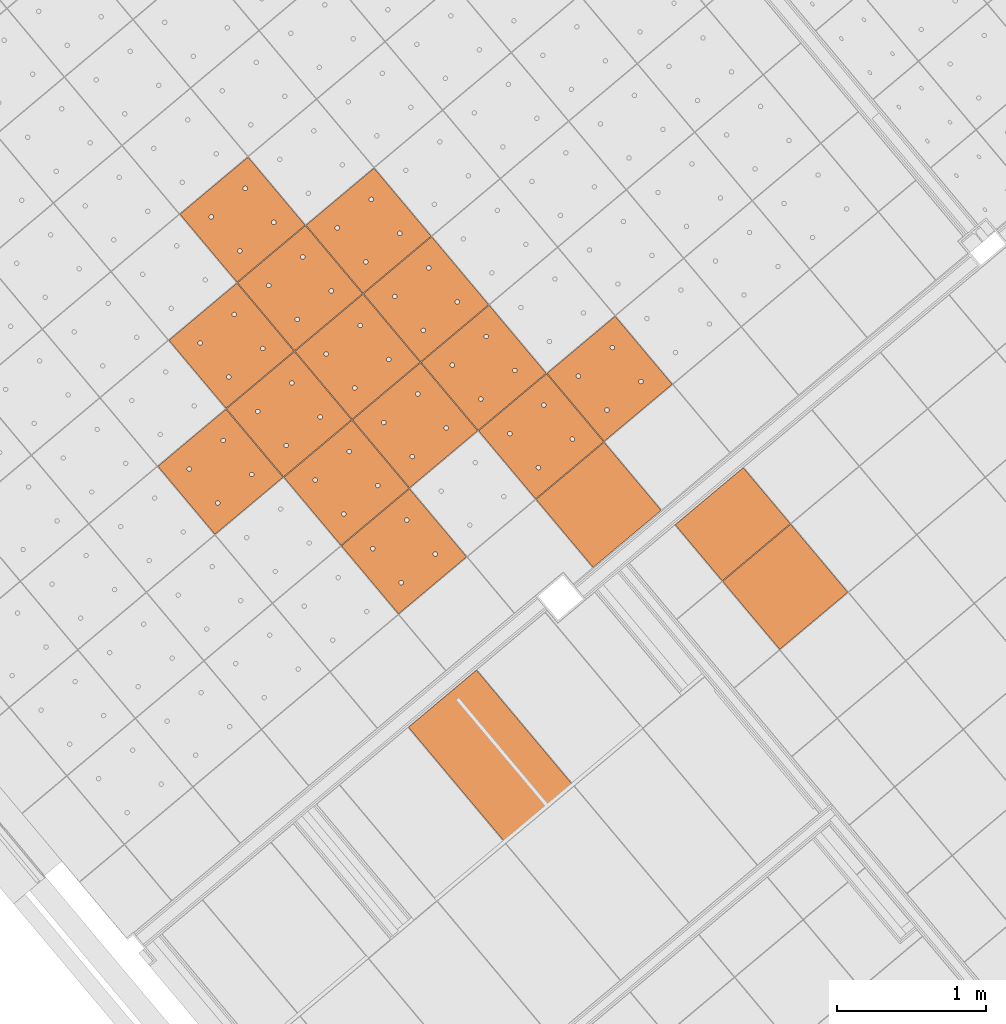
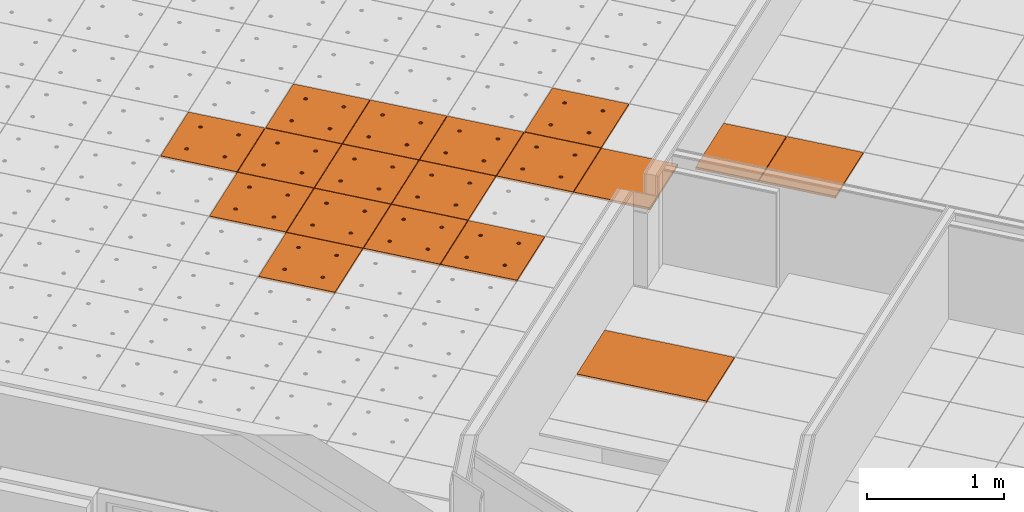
# One storey, part 143 of 338: 18 proxies, 3 elements without a shape of their own.
"""IFC2X3 building model written with IfcOpenShell, lengths in millimetres."""

from ifc_helpers import new_model, entity, si_unit, converted_unit, derived_unit, money_unit, direction, frame, origin_with_axes, place, context, subcontext, project, spatial, faceted_brep, source, transform, mapped, material, type_object, type_shapes, element, aggregate, save


model = new_model("IFC2X3")

# Units and contexts
model_context = context("Model", 3, precision=0.01, world=origin_with_axes(), true_north=direction((0.0, 1.0)))
plan_context = context("Plan", 3, precision=0.01, world=origin_with_axes(), true_north=direction((0.0, 1.0)))
body_context = subcontext(model_context, "Body", "Model", "MODEL_VIEW")
ifc_project = project(units=[si_unit("LENGTHUNIT", "METRE", prefix="MILLI"), si_unit("AREAUNIT", "SQUARE_METRE"), si_unit("VOLUMEUNIT", "CUBIC_METRE"), converted_unit("PLANEANGLEUNIT", "DEGREE", entity("IfcPlaneAngleMeasure", 0.0174532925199), si_unit("PLANEANGLEUNIT", "RADIAN"), dimensions=[0, 0, 0, 0, 0, 0, 0]), money_unit("EUR"), converted_unit("TIMEUNIT", "Year", entity("IfcTimeMeasure", 31556926.0), si_unit("TIMEUNIT", "SECOND"), dimensions=[0, 0, 1, 0, 0, 0, 0]), si_unit("MASSUNIT", "GRAM", prefix="KILO"), si_unit("THERMODYNAMICTEMPERATUREUNIT", "DEGREE_CELSIUS"), si_unit("LUMINOUSINTENSITYUNIT", "LUMEN"), si_unit("ENERGYUNIT", "JOULE", prefix="MEGA"), derived_unit("THERMALCONDUCTANCEUNIT", [(si_unit("POWERUNIT", "WATT"), 1), (si_unit("LENGTHUNIT", "METRE"), -1), (si_unit("THERMODYNAMICTEMPERATUREUNIT", "KELVIN"), -1)]), derived_unit("SPECIFICHEATCAPACITYUNIT", [(si_unit("ENERGYUNIT", "JOULE"), 1), (si_unit("MASSUNIT", "GRAM", prefix="KILO"), -1), (si_unit("THERMODYNAMICTEMPERATUREUNIT", "KELVIN"), -1)]), derived_unit("MASSDENSITYUNIT", [(si_unit("MASSUNIT", "GRAM", prefix="KILO"), 1), (si_unit("VOLUMEUNIT", "CUBIC_METRE"), -1)])], contexts=[model_context, plan_context])

# Site, building, storey
site_placement = place(None, origin_with_axes())
site = spatial("IfcSite", under=ifc_project, at=site_placement, Name="Fortuinstraat Woensdrecht", CompositionType="ELEMENT")
building_placement = place(site_placement, origin_with_axes())
building = spatial("IfcBuilding", under=site, at=building_placement, Name="IKC Fortuna", CompositionType="ELEMENT")
storey_placement = place(building_placement, origin_with_axes())
storey = spatial("IfcBuildingStorey", under=building, at=storey_placement, Name="00 begane grond", CompositionType="ELEMENT", Elevation=0.0)

# Covering, proxies
covering_type = type_object("IfcCoveringType", Name="Curtain Wall Type", PredefinedType="CEILING")
covering_1_placement = place(storey_placement, frame((17937.1227498, -4186.27868692, 4660.0), z_axis=(0.0, 0.0, 1.0), x_axis=(1.0, 0.0, 0.0)))
covering_1 = element("IfcCovering", 1, at=covering_1_placement, inside=storey, type_object=covering_type, Name="45_Plafondafwerking_P02", PredefinedType="CEILING")
ifc_material = material(Name="Gipsplaat")
building_element_proxy_type_1 = type_object("IfcBuildingElementProxyType", Name="Distinct Panel 600 x 600 x 20", PredefinedType="NOTDEFINED")
shared_shape_1 = source(origin_with_axes(), body_context, "Body", "Brep", [
    faceted_brep([(2.49999999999, 2.5, -10.0), (597.5, 2.49999999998, -10.0), (597.5, 2.49999999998, 10.0), (2.49999999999, 2.5, 10.0), (2.50000000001, 597.5, -10.0), (597.5, 597.5, -10.0), (597.5, 597.5, 10.0), (2.50000000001, 597.5, 10.0)], [[[0, 1, 2, 3]], [[0, 4, 5, 1]], [[1, 5, 6, 2]], [[3, 2, 6, 7]], [[4, 0, 3, 7]], [[5, 4, 7, 6]]]),
])
type_shapes(building_element_proxy_type_1, [shared_shape_1])
proxy_1_placement = place(covering_1_placement, frame((-8748.58757658, 1091.81516214, 2.57571741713e-10), z_axis=(0.0, 0.0, 1.0), x_axis=(1.0, 0.0, 0.0)))
proxy_1 = element("IfcBuildingElementProxy", 2, at=proxy_1_placement, type_object=building_element_proxy_type_1, material=ifc_material, Name="__Panel-D", context=body_context, shape_type="MappedRepresentation", body=[
    mapped(shared_shape_1, transform((36.9769427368, 422.649625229, 0.0), x_axis=(-0.766044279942, -0.642787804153, 0.0), y_axis=(0.642787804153, -0.766044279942, 0.0), z_axis=(0.0, 0.0, 1.0))),
])
building_element_proxy_type_2 = type_object("IfcBuildingElementProxyType", Name="Distinct Panel 600 x 495 x 20", PredefinedType="NOTDEFINED")
shared_shape_2 = source(origin_with_axes(), body_context, "Body", "Brep", [
    faceted_brep([(2.49999396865, 107.22693881, -10.0), (597.499990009, 107.226784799, -10.0), (597.499990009, 107.226784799, 10.0), (2.49999396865, 107.22693881, 10.0), (2.50000269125, 597.500000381, -10.0), (597.500002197, 597.499994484, -10.0), (597.500002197, 597.499994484, 10.0), (2.50000269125, 597.500000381, 10.0)], [[[0, 1, 2, 3]], [[0, 4, 5, 1]], [[1, 5, 6, 2]], [[3, 2, 6, 7]], [[4, 0, 3, 7]], [[5, 4, 7, 6]]]),
])
type_shapes(building_element_proxy_type_2, [shared_shape_2])
proxy_2_placement = place(covering_1_placement, frame((-9100.6016847, 1511.32902385, 2.57571741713e-10), z_axis=(0.0, 0.0, 1.0), x_axis=(1.0, 0.0, 0.0)))
proxy_2 = element("IfcBuildingElementProxy", 3, at=proxy_2_placement, type_object=building_element_proxy_type_2, material=ifc_material, Name="__Panel-D", context=body_context, shape_type="MappedRepresentation", body=[
    mapped(shared_shape_2, transform((3.31836836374, 462.762331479, 0.0), x_axis=(-0.766044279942, -0.642787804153, 0.0), y_axis=(0.642787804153, -0.766044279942, 0.0), z_axis=(0.0, 0.0, 1.0))),
])
aggregate(covering_1, [proxy_1, proxy_2])

covering_2_placement = place(storey_placement, frame((9775.85169731, -1002.28242867, 4660.0), z_axis=(0.0, 0.0, 1.0), x_axis=(1.0, 0.0, 0.0)))
covering_2 = element("IfcCovering", 4, at=covering_2_placement, inside=storey, type_object=covering_type, Name="45_Plafondafwerking_P01", PredefinedType="CEILING")
building_element_proxy_type_3 = type_object("IfcBuildingElementProxyType", Name="Main Panel 600 x 600 x 20", PredefinedType="NOTDEFINED")
shared_shape_3 = source(origin_with_axes(), body_context, "Body", "Brep", [
    faceted_brep([(2.49999999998, 2.49999999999, -10.0), (300.0, 2.49999999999, -10.0), (300.0, 2.49999999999, 10.0), (2.49999999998, 2.49999999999, 10.0), (2.49999999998, 300.0, -10.0), (2.49999999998, 597.5, -10.0), (300.0, 597.5, -10.0), (597.5, 597.5, -10.0), (597.5, 300.0, -10.0), (597.5, 2.49999999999, -10.0), (166.25, 450.06232995, -10.0), (165.79423259, 452.64711538, -10.0), (164.896546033, 455.11348892, -10.0), (163.58421608, 457.38651108, -10.0), (161.897117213, 459.39711721, -10.0), (159.886511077, 461.08421608, -10.0), (157.613488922, 462.39654603, -10.0), (155.147115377, 463.29423259, -10.0), (152.562329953, 463.75, -10.0), (149.937670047, 463.75, -10.0), (147.352884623, 463.29423259, -10.0), (144.886511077, 462.39654603, -10.0), (142.613488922, 461.08421608, -10.0), (140.602882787, 459.39711721, -10.0), (138.91578392, 457.38651108, -10.0), (137.603453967, 455.11348892, -10.0), (136.705767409, 452.64711538, -10.0), (136.25, 450.06232995, -10.0), (136.25, 448.75, -10.0), (136.25, 447.43767005, -10.0), (136.705767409, 444.85288462, -10.0), (137.603453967, 442.38651108, -10.0), (138.91578392, 440.11348892, -10.0), (140.602882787, 438.10288279, -10.0), (142.613488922, 436.41578392, -10.0), (144.886511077, 435.10345397, -10.0), (147.352884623, 434.20576741, -10.0), (149.937670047, 433.75, -10.0), (152.562329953, 433.75, -10.0), (155.147115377, 434.20576741, -10.0), (157.613488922, 435.10345397, -10.0), (159.886511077, 436.41578392, -10.0), (161.897117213, 438.10288279, -10.0), (163.58421608, 440.11348892, -10.0), (164.896546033, 442.38651108, -10.0), (165.79423259, 444.85288462, -10.0), (166.25, 447.43767005, -10.0), (463.75, 450.06232995, -10.0), (463.29423259, 452.64711538, -10.0), (462.396546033, 455.11348892, -10.0), (461.08421608, 457.38651108, -10.0), (459.397117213, 459.39711721, -10.0), (457.386511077, 461.08421608, -10.0), (455.113488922, 462.39654603, -10.0), (452.647115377, 463.29423259, -10.0), (450.062329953, 463.75, -10.0), (447.437670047, 463.75, -10.0), (444.852884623, 463.29423259, -10.0), (442.386511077, 462.39654603, -10.0), (440.113488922, 461.08421608, -10.0), (438.102882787, 459.39711721, -10.0), (436.41578392, 457.38651108, -10.0), (435.103453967, 455.11348892, -10.0), (434.205767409, 452.64711538, -10.0), (433.75, 450.06232995, -10.0), (433.75, 448.75, -10.0), (433.75, 447.43767005, -10.0), (434.205767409, 444.85288462, -10.0), (435.103453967, 442.38651108, -10.0), (436.41578392, 440.11348892, -10.0), (438.102882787, 438.10288279, -10.0), (440.113488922, 436.41578392, -10.0), (442.386511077, 435.10345397, -10.0), (444.852884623, 434.20576741, -10.0), (447.437670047, 433.75, -10.0), (450.062329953, 433.75, -10.0), (452.647115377, 434.20576741, -10.0), (455.113488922, 435.10345397, -10.0), (457.386511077, 436.41578392, -10.0), (459.397117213, 438.10288279, -10.0), (461.08421608, 440.11348892, -10.0), (462.396546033, 442.38651108, -10.0), (463.29423259, 444.85288462, -10.0), (463.75, 447.43767005, -10.0), (463.75, 152.56232995, -10.0), (463.29423259, 155.14711538, -10.0), (462.396546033, 157.61348892, -10.0), (461.08421608, 159.88651108, -10.0), (459.397117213, 161.89711721, -10.0), (457.386511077, 163.58421608, -10.0), (455.113488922, 164.89654603, -10.0), (452.647115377, 165.79423259, -10.0), (450.062329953, 166.25, -10.0), (447.437670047, 166.25, -10.0), (444.852884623, 165.79423259, -10.0), (442.386511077, 164.89654603, -10.0), (440.113488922, 163.58421608, -10.0), (438.102882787, 161.89711721, -10.0), (436.41578392, 159.88651108, -10.0), (435.103453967, 157.61348892, -10.0), (434.205767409, 155.14711538, -10.0), (433.75, 152.56232995, -10.0), (433.75, 151.25, -10.0), (433.75, 149.93767005, -10.0), (434.205767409, 147.35288462, -10.0), (435.103453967, 144.88651108, -10.0), (436.41578392, 142.61348892, -10.0), (438.102882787, 140.60288279, -10.0), (440.113488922, 138.91578392, -10.0), (442.386511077, 137.60345397, -10.0), (444.852884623, 136.70576741, -10.0), (447.437670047, 136.25, -10.0), (450.062329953, 136.25, -10.0), (452.647115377, 136.70576741, -10.0), (455.113488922, 137.60345397, -10.0), (457.386511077, 138.91578392, -10.0), (459.397117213, 140.60288279, -10.0), (461.08421608, 142.61348892, -10.0), (462.396546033, 144.88651108, -10.0), (463.29423259, 147.35288462, -10.0), (463.75, 149.93767005, -10.0), (166.25, 152.56232995, -10.0), (165.79423259, 155.14711538, -10.0), (164.896546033, 157.61348892, -10.0), (163.58421608, 159.88651108, -10.0), (161.897117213, 161.89711721, -10.0), (159.886511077, 163.58421608, -10.0), (157.613488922, 164.89654603, -10.0), (155.147115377, 165.79423259, -10.0), (152.562329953, 166.25, -10.0), (149.937670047, 166.25, -10.0), (147.352884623, 165.79423259, -10.0), (144.886511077, 164.89654603, -10.0), (142.613488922, 163.58421608, -10.0), (140.602882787, 161.89711721, -10.0), (138.91578392, 159.88651108, -10.0), (137.603453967, 157.61348892, -10.0), (136.705767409, 155.14711538, -10.0), (136.25, 152.56232995, -10.0), (136.25, 151.25, -10.0), (136.25, 149.93767005, -10.0), (136.705767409, 147.35288462, -10.0), (137.603453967, 144.88651108, -10.0), (138.91578392, 142.61348892, -10.0), (140.602882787, 140.60288279, -10.0), (142.613488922, 138.91578392, -10.0), (144.886511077, 137.60345397, -10.0), (147.352884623, 136.70576741, -10.0), (149.937670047, 136.25, -10.0), (152.562329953, 136.25, -10.0), (155.147115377, 136.70576741, -10.0), (157.613488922, 137.60345397, -10.0), (159.886511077, 138.91578392, -10.0), (161.897117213, 140.60288279, -10.0), (163.58421608, 142.61348892, -10.0), (164.896546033, 144.88651108, -10.0), (165.79423259, 147.35288462, -10.0), (166.25, 149.93767005, -10.0), (597.5, 2.49999999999, 10.0), (597.5, 300.0, 10.0), (597.5, 597.5, 10.0), (300.0, 597.5, 10.0), (2.49999999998, 597.5, 10.0), (2.49999999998, 300.0, 10.0), (166.25, 450.06232995, 10.0), (166.25, 447.43767005, 10.0), (165.79423259, 444.85288462, 10.0), (164.896546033, 442.38651108, 10.0), (163.58421608, 440.11348892, 10.0), (161.897117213, 438.10288279, 10.0), (159.886511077, 436.41578392, 10.0), (157.613488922, 435.10345397, 10.0), (155.147115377, 434.20576741, 10.0), (152.562329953, 433.75, 10.0), (149.937670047, 433.75, 10.0), (147.352884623, 434.20576741, 10.0), (144.886511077, 435.10345397, 10.0), (142.613488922, 436.41578392, 10.0), (140.602882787, 438.10288279, 10.0), (138.91578392, 440.11348892, 10.0), (137.603453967, 442.38651108, 10.0), (136.705767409, 444.85288462, 10.0), (136.25, 447.43767005, 10.0), (136.25, 448.75, 10.0), (136.25, 450.06232995, 10.0), (136.705767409, 452.64711538, 10.0), (137.603453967, 455.11348892, 10.0), (138.91578392, 457.38651108, 10.0), (140.602882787, 459.39711721, 10.0), (142.613488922, 461.08421608, 10.0), (144.886511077, 462.39654603, 10.0), (147.352884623, 463.29423259, 10.0), (149.937670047, 463.75, 10.0), (152.562329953, 463.75, 10.0), (155.147115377, 463.29423259, 10.0), (157.613488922, 462.39654603, 10.0), (159.886511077, 461.08421608, 10.0), (161.897117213, 459.39711721, 10.0), (163.58421608, 457.38651108, 10.0), (164.896546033, 455.11348892, 10.0), (165.79423259, 452.64711538, 10.0), (463.75, 450.06232995, 10.0), (463.75, 447.43767005, 10.0), (463.29423259, 444.85288462, 10.0), (462.396546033, 442.38651108, 10.0), (461.08421608, 440.11348892, 10.0), (459.397117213, 438.10288279, 10.0), (457.386511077, 436.41578392, 10.0), (455.113488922, 435.10345397, 10.0), (452.647115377, 434.20576741, 10.0), (450.062329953, 433.75, 10.0), (447.437670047, 433.75, 10.0), (444.852884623, 434.20576741, 10.0), (442.386511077, 435.10345397, 10.0), (440.113488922, 436.41578392, 10.0), (438.102882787, 438.10288279, 10.0), (436.41578392, 440.11348892, 10.0), (435.103453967, 442.38651108, 10.0), (434.205767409, 444.85288462, 10.0), (433.75, 447.43767005, 10.0), (433.75, 448.75, 10.0), (433.75, 450.06232995, 10.0), (434.205767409, 452.64711538, 10.0), (435.103453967, 455.11348892, 10.0), (436.41578392, 457.38651108, 10.0), (438.102882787, 459.39711721, 10.0), (440.113488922, 461.08421608, 10.0), (442.386511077, 462.39654603, 10.0), (444.852884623, 463.29423259, 10.0), (447.437670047, 463.75, 10.0), (450.062329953, 463.75, 10.0), (452.647115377, 463.29423259, 10.0), (455.113488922, 462.39654603, 10.0), (457.386511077, 461.08421608, 10.0), (459.397117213, 459.39711721, 10.0), (461.08421608, 457.38651108, 10.0), (462.396546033, 455.11348892, 10.0), (463.29423259, 452.64711538, 10.0), (463.75, 152.56232995, 10.0), (463.75, 149.93767005, 10.0), (463.29423259, 147.35288462, 10.0), (462.396546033, 144.88651108, 10.0), (461.08421608, 142.61348892, 10.0), (459.397117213, 140.60288279, 10.0), (457.386511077, 138.91578392, 10.0), (455.113488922, 137.60345397, 10.0), (452.647115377, 136.70576741, 10.0), (450.062329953, 136.25, 10.0), (447.437670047, 136.25, 10.0), (444.852884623, 136.70576741, 10.0), (442.386511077, 137.60345397, 10.0), (440.113488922, 138.91578392, 10.0), (438.102882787, 140.60288279, 10.0), (436.41578392, 142.61348892, 10.0), (435.103453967, 144.88651108, 10.0), (434.205767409, 147.35288462, 10.0), (433.75, 149.93767005, 10.0), (433.75, 151.25, 10.0), (433.75, 152.56232995, 10.0), (434.205767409, 155.14711538, 10.0), (435.103453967, 157.61348892, 10.0), (436.41578392, 159.88651108, 10.0), (438.102882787, 161.89711721, 10.0), (440.113488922, 163.58421608, 10.0), (442.386511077, 164.89654603, 10.0), (444.852884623, 165.79423259, 10.0), (447.437670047, 166.25, 10.0), (450.062329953, 166.25, 10.0), (452.647115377, 165.79423259, 10.0), (455.113488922, 164.89654603, 10.0), (457.386511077, 163.58421608, 10.0), (459.397117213, 161.89711721, 10.0), (461.08421608, 159.88651108, 10.0), (462.396546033, 157.61348892, 10.0), (463.29423259, 155.14711538, 10.0), (166.25, 152.56232995, 10.0), (166.25, 149.93767005, 10.0), (165.79423259, 147.35288462, 10.0), (164.896546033, 144.88651108, 10.0), (163.58421608, 142.61348892, 10.0), (161.897117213, 140.60288279, 10.0), (159.886511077, 138.91578392, 10.0), (157.613488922, 137.60345397, 10.0), (155.147115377, 136.70576741, 10.0), (152.562329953, 136.25, 10.0), (149.937670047, 136.25, 10.0), (147.352884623, 136.70576741, 10.0), (144.886511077, 137.60345397, 10.0), (142.613488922, 138.91578392, 10.0), (140.602882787, 140.60288279, 10.0), (138.91578392, 142.61348892, 10.0), (137.603453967, 144.88651108, 10.0), (136.705767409, 147.35288462, 10.0), (136.25, 149.93767005, 10.0), (136.25, 151.25, 10.0), (136.25, 152.56232995, 10.0), (136.705767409, 155.14711538, 10.0), (137.603453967, 157.61348892, 10.0), (138.91578392, 159.88651108, 10.0), (140.602882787, 161.89711721, 10.0), (142.613488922, 163.58421608, 10.0), (144.886511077, 164.89654603, 10.0), (147.352884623, 165.79423259, 10.0), (149.937670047, 166.25, 10.0), (152.562329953, 166.25, 10.0), (155.147115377, 165.79423259, 10.0), (157.613488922, 164.89654603, 10.0), (159.886511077, 163.58421608, 10.0), (161.897117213, 161.89711721, 10.0), (163.58421608, 159.88651108, 10.0), (164.896546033, 157.61348892, 10.0), (165.79423259, 155.14711538, 10.0)], [[[0, 1, 2, 3]], [[0, 4, 5, 6, 7, 8, 9, 1], [10, 11, 12, 13, 14, 15, 16, 17, 18, 19, 20, 21, 22, 23, 24, 25, 26, 27, 28, 29, 30, 31, 32, 33, 34, 35, 36, 37, 38, 39, 40, 41, 42, 43, 44, 45, 46], [47, 48, 49, 50, 51, 52, 53, 54, 55, 56, 57, 58, 59, 60, 61, 62, 63, 64, 65, 66, 67, 68, 69, 70, 71, 72, 73, 74, 75, 76, 77, 78, 79, 80, 81, 82, 83], [84, 85, 86, 87, 88, 89, 90, 91, 92, 93, 94, 95, 96, 97, 98, 99, 100, 101, 102, 103, 104, 105, 106, 107, 108, 109, 110, 111, 112, 113, 114, 115, 116, 117, 118, 119, 120], [121, 122, 123, 124, 125, 126, 127, 128, 129, 130, 131, 132, 133, 134, 135, 136, 137, 138, 139, 140, 141, 142, 143, 144, 145, 146, 147, 148, 149, 150, 151, 152, 153, 154, 155, 156, 157]], [[1, 9, 158, 2]], [[3, 2, 158, 159, 160, 161, 162, 163], [164, 165, 166, 167, 168, 169, 170, 171, 172, 173, 174, 175, 176, 177, 178, 179, 180, 181, 182, 183, 184, 185, 186, 187, 188, 189, 190, 191, 192, 193, 194, 195, 196, 197, 198, 199, 200], [201, 202, 203, 204, 205, 206, 207, 208, 209, 210, 211, 212, 213, 214, 215, 216, 217, 218, 219, 220, 221, 222, 223, 224, 225, 226, 227, 228, 229, 230, 231, 232, 233, 234, 235, 236, 237], [238, 239, 240, 241, 242, 243, 244, 245, 246, 247, 248, 249, 250, 251, 252, 253, 254, 255, 256, 257, 258, 259, 260, 261, 262, 263, 264, 265, 266, 267, 268, 269, 270, 271, 272, 273, 274], [275, 276, 277, 278, 279, 280, 281, 282, 283, 284, 285, 286, 287, 288, 289, 290, 291, 292, 293, 294, 295, 296, 297, 298, 299, 300, 301, 302, 303, 304, 305, 306, 307, 308, 309, 310, 311]], [[4, 0, 3, 163]], [[5, 4, 163, 162]], [[6, 5, 162, 161]], [[7, 6, 161, 160]], [[8, 7, 160, 159]], [[9, 8, 159, 158]], [[11, 10, 164, 200]], [[12, 11, 200, 199]], [[13, 12, 199, 198]], [[14, 13, 198, 197]], [[15, 14, 197, 196]], [[16, 15, 196, 195]], [[17, 16, 195, 194]], [[18, 17, 194, 193]], [[19, 18, 193, 192]], [[20, 19, 192, 191]], [[21, 20, 191, 190]], [[22, 21, 190, 189]], [[23, 22, 189, 188]], [[24, 23, 188, 187]], [[25, 24, 187, 186]], [[26, 25, 186, 185]], [[27, 26, 185, 184]], [[28, 27, 184, 183]], [[29, 28, 183, 182]], [[30, 29, 182, 181]], [[31, 30, 181, 180]], [[32, 31, 180, 179]], [[33, 32, 179, 178]], [[34, 33, 178, 177]], [[35, 34, 177, 176]], [[36, 35, 176, 175]], [[37, 36, 175, 174]], [[38, 37, 174, 173]], [[39, 38, 173, 172]], [[40, 39, 172, 171]], [[41, 40, 171, 170]], [[42, 41, 170, 169]], [[43, 42, 169, 168]], [[44, 43, 168, 167]], [[45, 44, 167, 166]], [[46, 45, 166, 165]], [[10, 46, 165, 164]], [[48, 47, 201, 237]], [[49, 48, 237, 236]], [[50, 49, 236, 235]], [[51, 50, 235, 234]], [[52, 51, 234, 233]], [[53, 52, 233, 232]], [[54, 53, 232, 231]], [[55, 54, 231, 230]], [[56, 55, 230, 229]], [[57, 56, 229, 228]], [[58, 57, 228, 227]], [[59, 58, 227, 226]], [[60, 59, 226, 225]], [[61, 60, 225, 224]], [[62, 61, 224, 223]], [[63, 62, 223, 222]], [[64, 63, 222, 221]], [[65, 64, 221, 220]], [[66, 65, 220, 219]], [[67, 66, 219, 218]], [[68, 67, 218, 217]], [[69, 68, 217, 216]], [[70, 69, 216, 215]], [[71, 70, 215, 214]], [[72, 71, 214, 213]], [[73, 72, 213, 212]], [[74, 73, 212, 211]], [[75, 74, 211, 210]], [[76, 75, 210, 209]], [[77, 76, 209, 208]], [[78, 77, 208, 207]], [[79, 78, 207, 206]], [[80, 79, 206, 205]], [[81, 80, 205, 204]], [[82, 81, 204, 203]], [[83, 82, 203, 202]], [[47, 83, 202, 201]], [[85, 84, 238, 274]], [[86, 85, 274, 273]], [[87, 86, 273, 272]], [[88, 87, 272, 271]], [[89, 88, 271, 270]], [[90, 89, 270, 269]], [[91, 90, 269, 268]], [[92, 91, 268, 267]], [[93, 92, 267, 266]], [[94, 93, 266, 265]], [[95, 94, 265, 264]], [[96, 95, 264, 263]], [[97, 96, 263, 262]], [[98, 97, 262, 261]], [[99, 98, 261, 260]], [[100, 99, 260, 259]], [[101, 100, 259, 258]], [[102, 101, 258, 257]], [[103, 102, 257, 256]], [[104, 103, 256, 255]], [[105, 104, 255, 254]], [[106, 105, 254, 253]], [[107, 106, 253, 252]], [[108, 107, 252, 251]], [[109, 108, 251, 250]], [[110, 109, 250, 249]], [[111, 110, 249, 248]], [[112, 111, 248, 247]], [[113, 112, 247, 246]], [[114, 113, 246, 245]], [[115, 114, 245, 244]], [[116, 115, 244, 243]], [[117, 116, 243, 242]], [[118, 117, 242, 241]], [[119, 118, 241, 240]], [[120, 119, 240, 239]], [[84, 120, 239, 238]], [[122, 121, 275, 311]], [[123, 122, 311, 310]], [[124, 123, 310, 309]], [[125, 124, 309, 308]], [[126, 125, 308, 307]], [[127, 126, 307, 306]], [[128, 127, 306, 305]], [[129, 128, 305, 304]], [[130, 129, 304, 303]], [[131, 130, 303, 302]], [[132, 131, 302, 301]], [[133, 132, 301, 300]], [[134, 133, 300, 299]], [[135, 134, 299, 298]], [[136, 135, 298, 297]], [[137, 136, 297, 296]], [[138, 137, 296, 295]], [[139, 138, 295, 294]], [[140, 139, 294, 293]], [[141, 140, 293, 292]], [[142, 141, 292, 291]], [[143, 142, 291, 290]], [[144, 143, 290, 289]], [[145, 144, 289, 288]], [[146, 145, 288, 287]], [[147, 146, 287, 286]], [[148, 147, 286, 285]], [[149, 148, 285, 284]], [[150, 149, 284, 283]], [[151, 150, 283, 282]], [[152, 151, 282, 281]], [[153, 152, 281, 280]], [[154, 153, 280, 279]], [[155, 154, 279, 278]], [[156, 155, 278, 277]], [[157, 156, 277, 276]], [[121, 157, 276, 275]]]),
])
type_shapes(building_element_proxy_type_3, [shared_shape_3])
proxy_3_placement = place(covering_2_placement, frame((-4374.4040376, -1320.82905642, 1.57207580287e-10), z_axis=(0.0, 0.0, 1.0), x_axis=(1.0, 0.0, 0.0)))
proxy_3 = element("IfcBuildingElementProxy", 5, at=proxy_3_placement, type_object=building_element_proxy_type_3, material=ifc_material, Name="__600x668 Rockfon Krios", context=body_context, shape_type="MappedRepresentation", body=[
    mapped(shared_shape_3, transform((36.9769427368, 422.649625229, 0.0), x_axis=(-0.766044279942, -0.642787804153, 0.0), y_axis=(0.642787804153, -0.766044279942, 0.0), z_axis=(0.0, 0.0, 1.0))),
])
proxy_4_placement = place(covering_2_placement, frame((-1764.55240076, -697.391462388, 0.0), z_axis=(0.0, 0.0, 1.0), x_axis=(1.0, 0.0, 0.0)))
proxy_4 = element("IfcBuildingElementProxy", 6, at=proxy_4_placement, type_object=building_element_proxy_type_3, material=ifc_material, Name="__600x724 Rockfon Krios", context=body_context, shape_type="MappedRepresentation", body=[
    mapped(shared_shape_3, transform((36.9769427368, 422.649625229, 0.0), x_axis=(-0.766044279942, -0.642787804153, 0.0), y_axis=(0.642787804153, -0.766044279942, 0.0), z_axis=(0.0, 0.0, 1.0))),
])
proxy_5_placement = place(covering_2_placement, frame((-3381.1970162, 295.815559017, 0.0), z_axis=(0.0, 0.0, 1.0), x_axis=(1.0, 0.0, 0.0)))
proxy_5 = element("IfcBuildingElementProxy", 7, at=proxy_5_placement, type_object=building_element_proxy_type_3, material=ifc_material, Name="__600x730 Rockfon Krios", context=body_context, shape_type="MappedRepresentation", body=[
    mapped(shared_shape_3, transform((36.9769427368, 422.649625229, 0.0), x_axis=(-0.766044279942, -0.642787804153, 0.0), y_axis=(0.642787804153, -0.766044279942, 0.0), z_axis=(0.0, 0.0, 1.0))),
])
proxy_6_placement = place(covering_2_placement, frame((-2995.5243337, -163.811008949, 0.0), z_axis=(0.0, 0.0, 1.0), x_axis=(1.0, 0.0, 0.0)))
proxy_6 = element("IfcBuildingElementProxy", 8, at=proxy_6_placement, type_object=building_element_proxy_type_3, material=ifc_material, Name="__600x731 Rockfon Krios", context=body_context, shape_type="MappedRepresentation", body=[
    mapped(shared_shape_3, transform((36.9769427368, 422.649625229, 0.0), x_axis=(-0.766044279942, -0.642787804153, 0.0), y_axis=(0.642787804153, -0.766044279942, 0.0), z_axis=(0.0, 0.0, 1.0))),
])
proxy_7_placement = place(covering_2_placement, frame((-2609.85165121, -623.437576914, 0.0), z_axis=(0.0, 0.0, 1.0), x_axis=(1.0, 0.0, 0.0)))
proxy_7 = element("IfcBuildingElementProxy", 9, at=proxy_7_placement, type_object=building_element_proxy_type_3, material=ifc_material, Name="__600x732 Rockfon Krios", context=body_context, shape_type="MappedRepresentation", body=[
    mapped(shared_shape_3, transform((36.9769427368, 422.649625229, 0.0), x_axis=(-0.766044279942, -0.642787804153, 0.0), y_axis=(0.642787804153, -0.766044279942, 0.0), z_axis=(0.0, 0.0, 1.0))),
])
proxy_8_placement = place(covering_2_placement, frame((-2224.17896872, -1083.06414488, 0.0), z_axis=(0.0, 0.0, 1.0), x_axis=(1.0, 0.0, 0.0)))
proxy_8 = element("IfcBuildingElementProxy", 10, at=proxy_8_placement, type_object=building_element_proxy_type_3, material=ifc_material, Name="__600x733 Rockfon Krios", context=body_context, shape_type="MappedRepresentation", body=[
    mapped(shared_shape_3, transform((36.9769427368, 422.649625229, 0.0), x_axis=(-0.766044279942, -0.642787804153, 0.0), y_axis=(0.642787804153, -0.766044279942, 0.0), z_axis=(0.0, 0.0, 1.0))),
])
proxy_9_placement = place(covering_2_placement, frame((-4226.49626665, 369.76944449, 1.1812772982e-10), z_axis=(0.0, 0.0, 1.0), x_axis=(1.0, 0.0, 0.0)))
proxy_9 = element("IfcBuildingElementProxy", 11, at=proxy_9_placement, type_object=building_element_proxy_type_3, material=ifc_material, Name="__600x738 Rockfon Krios", context=body_context, shape_type="MappedRepresentation", body=[
    mapped(shared_shape_3, transform((36.9769427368, 422.649625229, 0.0), x_axis=(-0.766044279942, -0.642787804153, 0.0), y_axis=(0.642787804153, -0.766044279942, 0.0), z_axis=(0.0, 0.0, 1.0))),
])
proxy_10_placement = place(covering_2_placement, frame((-3840.82358416, -89.8571234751, 1.1812772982e-10), z_axis=(0.0, 0.0, 1.0), x_axis=(1.0, 0.0, 0.0)))
proxy_10 = element("IfcBuildingElementProxy", 12, at=proxy_10_placement, type_object=building_element_proxy_type_3, material=ifc_material, Name="__600x739 Rockfon Krios", context=body_context, shape_type="MappedRepresentation", body=[
    mapped(shared_shape_3, transform((36.9769427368, 422.649625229, 0.0), x_axis=(-0.766044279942, -0.642787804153, 0.0), y_axis=(0.642787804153, -0.766044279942, 0.0), z_axis=(0.0, 0.0, 1.0))),
])
proxy_11_placement = place(covering_2_placement, frame((-3455.15090167, -549.48369144, 1.1812772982e-10), z_axis=(0.0, 0.0, 1.0), x_axis=(1.0, 0.0, 0.0)))
proxy_11 = element("IfcBuildingElementProxy", 13, at=proxy_11_placement, type_object=building_element_proxy_type_3, material=ifc_material, Name="__600x740 Rockfon Krios", context=body_context, shape_type="MappedRepresentation", body=[
    mapped(shared_shape_3, transform((36.9769427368, 422.649625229, 0.0), x_axis=(-0.766044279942, -0.642787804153, 0.0), y_axis=(0.642787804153, -0.766044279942, 0.0), z_axis=(0.0, 0.0, 1.0))),
])
proxy_12_placement = place(covering_2_placement, frame((-3069.47821918, -1009.11025941, 1.1812772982e-10), z_axis=(0.0, 0.0, 1.0), x_axis=(1.0, 0.0, 0.0)))
proxy_12 = element("IfcBuildingElementProxy", 14, at=proxy_12_placement, type_object=building_element_proxy_type_3, material=ifc_material, Name="__600x741 Rockfon Krios", context=body_context, shape_type="MappedRepresentation", body=[
    mapped(shared_shape_3, transform((36.9769427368, 422.649625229, 0.0), x_axis=(-0.766044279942, -0.642787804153, 0.0), y_axis=(0.642787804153, -0.766044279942, 0.0), z_axis=(0.0, 0.0, 1.0))),
])
proxy_13_placement = place(covering_2_placement, frame((-4300.45015213, -475.529805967, 1.37667655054e-10), z_axis=(0.0, 0.0, 1.0), x_axis=(1.0, 0.0, 0.0)))
proxy_13 = element("IfcBuildingElementProxy", 15, at=proxy_13_placement, type_object=building_element_proxy_type_3, material=ifc_material, Name="__600x748 Rockfon Krios", context=body_context, shape_type="MappedRepresentation", body=[
    mapped(shared_shape_3, transform((36.9769427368, 422.649625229, 0.0), x_axis=(-0.766044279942, -0.642787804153, 0.0), y_axis=(0.642787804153, -0.766044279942, 0.0), z_axis=(0.0, 0.0, 1.0))),
])
proxy_14_placement = place(covering_2_placement, frame((-3914.77746963, -935.156373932, 1.37667655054e-10), z_axis=(0.0, 0.0, 1.0), x_axis=(1.0, 0.0, 0.0)))
proxy_14 = element("IfcBuildingElementProxy", 16, at=proxy_14_placement, type_object=building_element_proxy_type_3, material=ifc_material, Name="__600x749 Rockfon Krios", context=body_context, shape_type="MappedRepresentation", body=[
    mapped(shared_shape_3, transform((36.9769427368, 422.649625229, 0.0), x_axis=(-0.766044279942, -0.642787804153, 0.0), y_axis=(0.642787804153, -0.766044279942, 0.0), z_axis=(0.0, 0.0, 1.0))),
])
proxy_15_placement = place(covering_2_placement, frame((-3529.10478714, -1394.7829419, 1.37667655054e-10), z_axis=(0.0, 0.0, 1.0), x_axis=(1.0, 0.0, 0.0)))
proxy_15 = element("IfcBuildingElementProxy", 17, at=proxy_15_placement, type_object=building_element_proxy_type_3, material=ifc_material, Name="__600x750 Rockfon Krios", context=body_context, shape_type="MappedRepresentation", body=[
    mapped(shared_shape_3, transform((36.9769427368, 422.649625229, 0.0), x_axis=(-0.766044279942, -0.642787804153, 0.0), y_axis=(0.642787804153, -0.766044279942, 0.0), z_axis=(0.0, 0.0, 1.0))),
])
proxy_16_placement = place(covering_2_placement, frame((-3143.43210465, -1854.40950986, 1.37667655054e-10), z_axis=(0.0, 0.0, 1.0), x_axis=(1.0, 0.0, 0.0)))
proxy_16 = element("IfcBuildingElementProxy", 18, at=proxy_16_placement, type_object=building_element_proxy_type_3, material=ifc_material, Name="__600x751 Rockfon Krios", context=body_context, shape_type="MappedRepresentation", body=[
    mapped(shared_shape_3, transform((36.9769427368, 422.649625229, 0.0), x_axis=(-0.766044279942, -0.642787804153, 0.0), y_axis=(0.642787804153, -0.766044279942, 0.0), z_axis=(0.0, 0.0, 1.0))),
])

# Covering, proxy
covering_3_placement = place(storey_placement, frame((6017.19720753, -6528.82230411, 4260.0), z_axis=(0.0, 0.0, 1.0), x_axis=(1.0, 0.0, 0.0)))
covering_3 = element("IfcCovering", 19, at=covering_3_placement, inside=storey, type_object=covering_type, Name="45_Plafondafwerking_P02a", PredefinedType="CEILING")
building_element_proxy_type_4 = type_object("IfcBuildingElementProxyType", Name="Distinct Panel 600 x 1018 x 20", PredefinedType="NOTDEFINED")
shared_shape_4 = source(origin_with_axes(), body_context, "Body", "Brep", [
    faceted_brep([(-597.500006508, 184.999490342, -10.0), (-597.500006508, 184.999490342, 10.0), (-597.499990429, 1197.50001325, 10.0), (-597.499990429, 1197.50001325, -10.0), (-2.49999400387, 184.999595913, -10.0), (-2.49999400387, 184.999595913, 10.0), (-2.50000281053, 1197.49998127, 10.0), (-2.50000281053, 1197.49998127, -10.0)], [[[0, 1, 2, 3]], [[4, 5, 1, 0]], [[1, 5, 6, 2]], [[3, 2, 6, 7]], [[0, 3, 7, 4]], [[7, 6, 5, 4]]]),
])
type_shapes(building_element_proxy_type_4, [shared_shape_4])
proxy_17_placement = place(covering_3_placement, frame((1198.5221876, 2296.35752243, 0.0), z_axis=(0.0, 0.0, 1.0), x_axis=(1.0, 0.0, 0.0)))
proxy_17 = element("IfcBuildingElementProxy", 20, at=proxy_17_placement, type_object=building_element_proxy_type_4, material=ifc_material, Name="__Panel-D", context=body_context, shape_type="MappedRepresentation", body=[
    mapped(shared_shape_4, transform((-674.140174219, 336.691661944, 0.0), x_axis=(-0.766044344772, -0.642787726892, 0.0), y_axis=(0.642787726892, -0.766044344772, 0.0), z_axis=(0.0, 0.0, 1.0))),
])
aggregate(covering_3, [proxy_17])

# Proxy
building_element_proxy_type_5 = type_object("IfcBuildingElementProxyType", Name="600 x 600 x 20", PredefinedType="NOTDEFINED")
shared_shape_5 = source(origin_with_axes(), body_context, "Body", "Brep", [
    faceted_brep([(2.49999736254, 2.50000909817, -10.0), (597.499988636, 2.49999466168, -10.0), (597.499988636, 2.49999466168, 10.0), (2.49999736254, 2.50000909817, 10.0), (2.49999906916, 597.500043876, -10.0), (597.499988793, 597.500047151, -10.0), (597.499988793, 597.500047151, 10.0), (2.49999906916, 597.500043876, 10.0)], [[[0, 1, 2, 3]], [[0, 4, 5, 1]], [[1, 5, 6, 2]], [[3, 2, 6, 7]], [[4, 0, 3, 7]], [[5, 4, 7, 6]]]),
])
type_shapes(building_element_proxy_type_5, [shared_shape_5])
proxy_18_placement = place(covering_2_placement, frame((-1838.50627186, -1542.69072997, 0.0), z_axis=(0.0, 0.0, 1.0), x_axis=(1.0, 0.0, 0.0)))
proxy_18 = element("IfcBuildingElementProxy", 21, at=proxy_18_placement, type_object=building_element_proxy_type_5, material=ifc_material, Name="__600x661 Rockfon Krios", context=body_context, shape_type="MappedRepresentation", body=[
    mapped(shared_shape_5, transform((36.9769283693, 422.649642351, 0.0), x_axis=(-0.766044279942, -0.642787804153, 0.0), y_axis=(0.642787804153, -0.766044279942, 0.0), z_axis=(0.0, 0.0, 1.0))),
])

aggregate(covering_2, [proxy_18, proxy_3, proxy_4, proxy_5, proxy_6, proxy_7, proxy_8, proxy_9, proxy_10, proxy_11, proxy_12, proxy_13, proxy_14, proxy_15, proxy_16])

save(model, "model.ifc")
